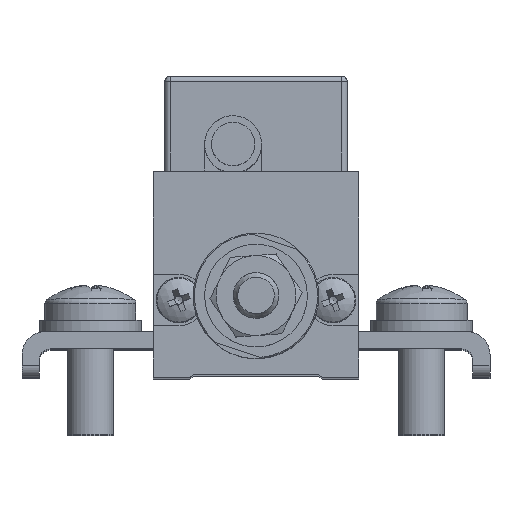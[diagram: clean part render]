
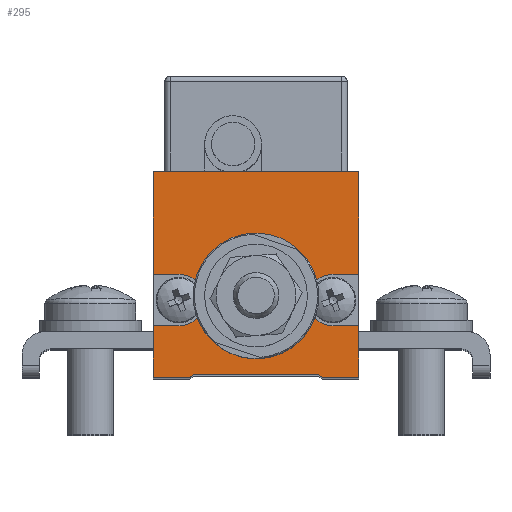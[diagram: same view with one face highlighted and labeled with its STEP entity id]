
A CAD part, top view. The second image highlights one B-rep face of the part: STEP entity #295.
In plain terms, the highlighted planar face has unit normal (0, 0, 1).
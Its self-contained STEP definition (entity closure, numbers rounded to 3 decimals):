
#37 = DIRECTION ( 'NONE',  ( 0., 0., 1. ) ) ;
#52 = ORIENTED_EDGE ( 'NONE', *, *, #2235, .F. ) ;
#57 = ORIENTED_EDGE ( 'NONE', *, *, #7384, .T. ) ;
#118 = EDGE_CURVE ( 'NONE', #1842, #1273, #2697, .T. ) ;
#202 = VECTOR ( 'NONE', #3252, 1000. ) ;
#214 = CARTESIAN_POINT ( 'NONE',  ( 15.75, 4.5, 0. ) ) ;
#245 = LINE ( 'NONE', #8036, #2591 ) ;
#295 = ADVANCED_FACE ( 'NONE', ( #2597, #755 ), #5862, .T. ) ;
#531 = EDGE_CURVE ( 'NONE', #754, #6281, #6170, .T. ) ;
#540 = AXIS2_PLACEMENT_3D ( 'NONE', #2337, #2303, #6335 ) ;
#706 = CIRCLE ( 'NONE', #4947, 2.25 ) ;
#714 = DIRECTION ( 'NONE',  ( 0., -1., 0. ) ) ;
#747 = EDGE_CURVE ( 'NONE', #1904, #6873, #245, .T. ) ;
#754 = VERTEX_POINT ( 'NONE', #4124 ) ;
#755 = FACE_BOUND ( 'NONE', #6945, .T. ) ;
#793 = CARTESIAN_POINT ( 'NONE',  ( 18., 9., 0. ) ) ;
#966 = CARTESIAN_POINT ( 'NONE',  ( 18., 0., 0. ) ) ;
#1054 = ORIENTED_EDGE ( 'NONE', *, *, #531, .T. ) ;
#1083 = VECTOR ( 'NONE', #3092, 1000. ) ;
#1147 = CARTESIAN_POINT ( 'NONE',  ( 3.5, 0.25, 0. ) ) ;
#1273 = VERTEX_POINT ( 'NONE', #5387 ) ;
#1395 = LINE ( 'NONE', #966, #4768 ) ;
#1422 = LINE ( 'NONE', #5850, #6426 ) ;
#1436 = CIRCLE ( 'NONE', #540, 2.25 ) ;
#1505 = LINE ( 'NONE', #5146, #2016 ) ;
#1520 = CARTESIAN_POINT ( 'NONE',  ( 18., 0., 0. ) ) ;
#1587 = EDGE_CURVE ( 'NONE', #6158, #4519, #1505, .T. ) ;
#1590 = LINE ( 'NONE', #8038, #2507 ) ;
#1594 = CIRCLE ( 'NONE', #6312, 2.6 ) ;
#1669 = VECTOR ( 'NONE', #3715, 1000. ) ;
#1842 = VERTEX_POINT ( 'NONE', #7368 ) ;
#1904 = VERTEX_POINT ( 'NONE', #793 ) ;
#1939 = DIRECTION ( 'NONE',  ( 1., 0., 0. ) ) ;
#1960 = DIRECTION ( 'NONE',  ( 1., 0., 0. ) ) ;
#2016 = VECTOR ( 'NONE', #7844, 1000. ) ;
#2038 = DIRECTION ( 'NONE',  ( 0., 0., 1. ) ) ;
#2141 = CARTESIAN_POINT ( 'NONE',  ( 18., 4.5, 0. ) ) ;
#2235 = EDGE_CURVE ( 'NONE', #6597, #5566, #5256, .T. ) ;
#2268 = EDGE_LOOP ( 'NONE', ( #5321, #7867, #6237, #2803, #5917, #52, #2428, #4845, #57, #5755, #1054, #7441, #7197, #7189, #4048, #6128 ) ) ;
#2303 = DIRECTION ( 'NONE',  ( 0., 0., 1. ) ) ;
#2337 = CARTESIAN_POINT ( 'NONE',  ( 2.25, 6.75, 0. ) ) ;
#2379 = CARTESIAN_POINT ( 'NONE',  ( 0., 4.5, 0. ) ) ;
#2428 = ORIENTED_EDGE ( 'NONE', *, *, #4864, .F. ) ;
#2507 = VECTOR ( 'NONE', #2846, 1000. ) ;
#2568 = CARTESIAN_POINT ( 'NONE',  ( 3.5, 0.25, 0. ) ) ;
#2591 = VECTOR ( 'NONE', #2817, 1000. ) ;
#2597 = FACE_OUTER_BOUND ( 'NONE', #2268, .T. ) ;
#2697 = LINE ( 'NONE', #7087, #1083 ) ;
#2722 = ORIENTED_EDGE ( 'NONE', *, *, #8285, .F. ) ;
#2778 = DIRECTION ( 'NONE',  ( 1., 0., 0. ) ) ;
#2803 = ORIENTED_EDGE ( 'NONE', *, *, #3552, .T. ) ;
#2817 = DIRECTION ( 'NONE',  ( -1., 0., 0. ) ) ;
#2846 = DIRECTION ( 'NONE',  ( -1., 0., 0. ) ) ;
#2966 = CARTESIAN_POINT ( 'NONE',  ( 11.6, 7., 0. ) ) ;
#3092 = DIRECTION ( 'NONE',  ( -0.768, 0.64, 0. ) ) ;
#3109 = EDGE_CURVE ( 'NONE', #4961, #5706, #5443, .T. ) ;
#3112 = DIRECTION ( 'NONE',  ( 1., 0., 0. ) ) ;
#3214 = CARTESIAN_POINT ( 'NONE',  ( 0., 9., 0. ) ) ;
#3252 = DIRECTION ( 'NONE',  ( -1., 0., 0. ) ) ;
#3305 = LINE ( 'NONE', #4198, #5864 ) ;
#3482 = CARTESIAN_POINT ( 'NONE',  ( 18., 18., 0. ) ) ;
#3552 = EDGE_CURVE ( 'NONE', #1842, #3620, #6987, .T. ) ;
#3620 = VERTEX_POINT ( 'NONE', #1520 ) ;
#3663 = CARTESIAN_POINT ( 'NONE',  ( 0., 18., 0. ) ) ;
#3694 = VECTOR ( 'NONE', #7887, 1000. ) ;
#3715 = DIRECTION ( 'NONE',  ( 0., -1., 0. ) ) ;
#3819 = CARTESIAN_POINT ( 'NONE',  ( 0., 0., 0. ) ) ;
#3869 = LINE ( 'NONE', #6275, #7056 ) ;
#3966 = CARTESIAN_POINT ( 'NONE',  ( 0., 0., 0. ) ) ;
#3999 = CARTESIAN_POINT ( 'NONE',  ( 0., 0., 0. ) ) ;
#4048 = ORIENTED_EDGE ( 'NONE', *, *, #5573, .T. ) ;
#4072 = LINE ( 'NONE', #2568, #202 ) ;
#4124 = CARTESIAN_POINT ( 'NONE',  ( 0., 18., 0. ) ) ;
#4198 = CARTESIAN_POINT ( 'NONE',  ( 18., 0., 0. ) ) ;
#4212 = DIRECTION ( 'NONE',  ( 0., 1., 0. ) ) ;
#4350 = DIRECTION ( 'NONE',  ( -1., 0., 0. ) ) ;
#4495 = VECTOR ( 'NONE', #714, 1000. ) ;
#4519 = VERTEX_POINT ( 'NONE', #6790 ) ;
#4605 = EDGE_CURVE ( 'NONE', #7805, #6281, #3869, .T. ) ;
#4695 = LINE ( 'NONE', #5182, #4495 ) ;
#4765 = EDGE_CURVE ( 'NONE', #1273, #7850, #4072, .T. ) ;
#4768 = VECTOR ( 'NONE', #4212, 1000. ) ;
#4811 = EDGE_CURVE ( 'NONE', #7850, #5706, #1422, .T. ) ;
#4845 = ORIENTED_EDGE ( 'NONE', *, *, #747, .F. ) ;
#4864 = EDGE_CURVE ( 'NONE', #6873, #6597, #706, .T. ) ;
#4947 = AXIS2_PLACEMENT_3D ( 'NONE', #8007, #2038, #2778 ) ;
#4961 = VERTEX_POINT ( 'NONE', #6634 ) ;
#5146 = CARTESIAN_POINT ( 'NONE',  ( 0., 4.5, 0. ) ) ;
#5182 = CARTESIAN_POINT ( 'NONE',  ( 0., 18., 0. ) ) ;
#5232 = CARTESIAN_POINT ( 'NONE',  ( 18., 4.5, 0. ) ) ;
#5256 = LINE ( 'NONE', #2141, #8268 ) ;
#5315 = DIRECTION ( 'NONE',  ( 1., 0., 0. ) ) ;
#5321 = ORIENTED_EDGE ( 'NONE', *, *, #4811, .F. ) ;
#5387 = CARTESIAN_POINT ( 'NONE',  ( 14.5, 0.25, 0. ) ) ;
#5443 = LINE ( 'NONE', #3819, #7413 ) ;
#5503 = DIRECTION ( 'NONE',  ( 0., 1., 0. ) ) ;
#5566 = VERTEX_POINT ( 'NONE', #5232 ) ;
#5573 = EDGE_CURVE ( 'NONE', #6158, #4961, #4695, .T. ) ;
#5621 = CARTESIAN_POINT ( 'NONE',  ( 2.25, 9., 0. ) ) ;
#5664 = VERTEX_POINT ( 'NONE', #2966 ) ;
#5706 = VERTEX_POINT ( 'NONE', #7774 ) ;
#5755 = ORIENTED_EDGE ( 'NONE', *, *, #7922, .T. ) ;
#5765 = CARTESIAN_POINT ( 'NONE',  ( 15.75, 9., 0. ) ) ;
#5841 = DIRECTION ( 'NONE',  ( 0., 0., 1. ) ) ;
#5850 = CARTESIAN_POINT ( 'NONE',  ( 3.2, 0., 0. ) ) ;
#5862 = PLANE ( 'NONE',  #7066 ) ;
#5864 = VECTOR ( 'NONE', #5503, 1000. ) ;
#5917 = ORIENTED_EDGE ( 'NONE', *, *, #7692, .T. ) ;
#6128 = ORIENTED_EDGE ( 'NONE', *, *, #3109, .T. ) ;
#6158 = VERTEX_POINT ( 'NONE', #2379 ) ;
#6170 = LINE ( 'NONE', #3663, #1669 ) ;
#6237 = ORIENTED_EDGE ( 'NONE', *, *, #118, .F. ) ;
#6275 = CARTESIAN_POINT ( 'NONE',  ( 0., 9., 0. ) ) ;
#6281 = VERTEX_POINT ( 'NONE', #3214 ) ;
#6312 = AXIS2_PLACEMENT_3D ( 'NONE', #7893, #5841, #1939 ) ;
#6335 = DIRECTION ( 'NONE',  ( -1., 0., 0. ) ) ;
#6426 = VECTOR ( 'NONE', #6546, 1000. ) ;
#6546 = DIRECTION ( 'NONE',  ( -0.768, -0.64, 0. ) ) ;
#6597 = VERTEX_POINT ( 'NONE', #214 ) ;
#6634 = CARTESIAN_POINT ( 'NONE',  ( 0., 0., 0. ) ) ;
#6771 = EDGE_CURVE ( 'NONE', #4519, #7805, #1436, .T. ) ;
#6790 = CARTESIAN_POINT ( 'NONE',  ( 2.25, 4.5, 0. ) ) ;
#6873 = VERTEX_POINT ( 'NONE', #5765 ) ;
#6945 = EDGE_LOOP ( 'NONE', ( #2722 ) ) ;
#6987 = LINE ( 'NONE', #3999, #3694 ) ;
#7056 = VECTOR ( 'NONE', #4350, 1000. ) ;
#7066 = AXIS2_PLACEMENT_3D ( 'NONE', #3966, #37, #1960 ) ;
#7087 = CARTESIAN_POINT ( 'NONE',  ( 14.5, 0.25, 0. ) ) ;
#7189 = ORIENTED_EDGE ( 'NONE', *, *, #1587, .F. ) ;
#7197 = ORIENTED_EDGE ( 'NONE', *, *, #6771, .F. ) ;
#7314 = VERTEX_POINT ( 'NONE', #3482 ) ;
#7368 = CARTESIAN_POINT ( 'NONE',  ( 14.8, 0., 0. ) ) ;
#7384 = EDGE_CURVE ( 'NONE', #1904, #7314, #1395, .T. ) ;
#7413 = VECTOR ( 'NONE', #3112, 1000. ) ;
#7441 = ORIENTED_EDGE ( 'NONE', *, *, #4605, .F. ) ;
#7692 = EDGE_CURVE ( 'NONE', #3620, #5566, #3305, .T. ) ;
#7774 = CARTESIAN_POINT ( 'NONE',  ( 3.2, 0., 0. ) ) ;
#7805 = VERTEX_POINT ( 'NONE', #5621 ) ;
#7844 = DIRECTION ( 'NONE',  ( 1., 0., 0. ) ) ;
#7850 = VERTEX_POINT ( 'NONE', #1147 ) ;
#7867 = ORIENTED_EDGE ( 'NONE', *, *, #4765, .F. ) ;
#7887 = DIRECTION ( 'NONE',  ( 1., 0., 0. ) ) ;
#7893 = CARTESIAN_POINT ( 'NONE',  ( 9., 7., 0. ) ) ;
#7922 = EDGE_CURVE ( 'NONE', #7314, #754, #1590, .T. ) ;
#8007 = CARTESIAN_POINT ( 'NONE',  ( 15.75, 6.75, 0. ) ) ;
#8036 = CARTESIAN_POINT ( 'NONE',  ( 18., 9., 0. ) ) ;
#8038 = CARTESIAN_POINT ( 'NONE',  ( 18., 18., 0. ) ) ;
#8268 = VECTOR ( 'NONE', #5315, 1000. ) ;
#8285 = EDGE_CURVE ( 'NONE', #5664, #5664, #1594, .T. ) ;
